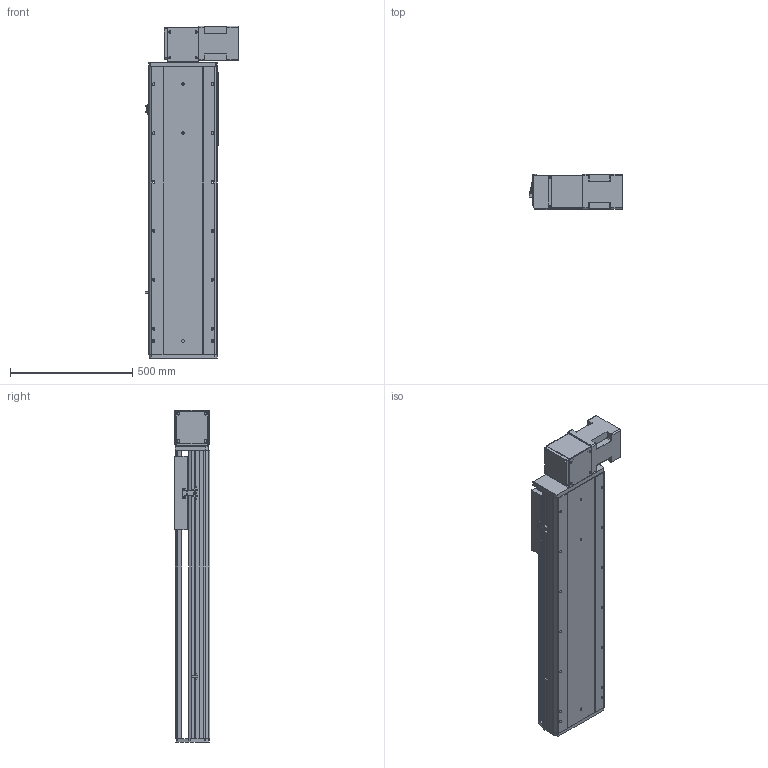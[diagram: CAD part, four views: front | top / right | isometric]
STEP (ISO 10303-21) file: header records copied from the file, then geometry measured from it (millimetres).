
FILE_DESCRIPTION (( 'STEP AP214' ), '1' );
FILE_NAME ('RTB28S-XX-750-BL-M100-XX-C4.STEP', '2025-12-22T02:18:20', ( '' ), ( '' ), 'SwSTEP 2.0', 'SolidWorks 2018', '' );
FILE_SCHEMA (( 'AUTOMOTIVE_DESIGN' ));
Length unit declared in the file: millimetre
Products named in the file (4): RTB28S-GY-011^RTB28S-XX-XX-BL-M100-XX-C4; RTB28S-GY-004^RTB28S-XX-XX-BL-M100-XX-C4; RTB28S-XX-750-BL-M100-XX-C4; RTB28S-GY-008^RTB28S-XX-XX-BL-M100-XX-C4
Assembly tree (3 placements, depth 2):
  RTB28S-XX-750-BL-M100-XX-C4
    RTB28S-GY-011^RTB28S-XX-XX-BL-M100-XX-C4
    RTB28S-GY-004^RTB28S-XX-XX-BL-M100-XX-C4
    RTB28S-GY-008^RTB28S-XX-XX-BL-M100-XX-C4
Bounding box: 380.7 x 145 x 1357 mm (x, y, z)
Volume: 25670187.8 mm3; surface area: 2507712.5 mm2
Topology: 3 solids, 4 shells, 778 faces, 2058 edges, 1308 vertices
Faces by surface type: cylinder 351, plane 343, cone 80, torus 4
Entity records: 29027 total; most frequent: CARTESIAN_POINT 4852, DIRECTION 4356, ORIENTED_EDGE 4052, EDGE_CURVE 2026, AXIS2_PLACEMENT_3D 1568, VERTEX_POINT 1308, VECTOR 1220, LINE 1220
